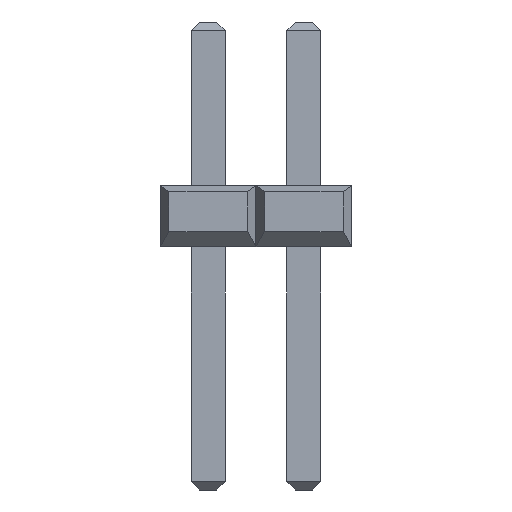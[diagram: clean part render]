
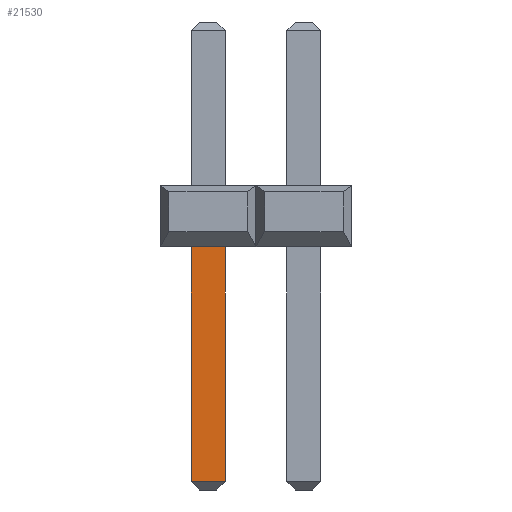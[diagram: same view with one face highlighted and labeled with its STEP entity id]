
A CAD part, left-side view. The second image highlights one B-rep face of the part: STEP entity #21530.
In plain terms, the highlighted planar face has unit normal (-1, 0, 0).
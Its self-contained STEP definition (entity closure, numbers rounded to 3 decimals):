
#21396=CARTESIAN_POINT('',(-0.356,-0.356,0.0));
#21395=VERTEX_POINT('',#21396);
#21414=CARTESIAN_POINT('',(-0.356,0.356,0.0));
#21413=VERTEX_POINT('',#21414);
#21422=EDGE_CURVE('',#21395,#21413,#21427,.T.);
#21427=LINE('',#21396,#21429);
#21429=VECTOR('',#21430,0.711);
#21430=DIRECTION('',(0.0,1.0,0.0));
#21492=CARTESIAN_POINT('',(-0.356,0.356,-4.902));
#21491=VERTEX_POINT('',#21492);
#21500=EDGE_CURVE('',#21413,#21491,#21505,.T.);
#21505=LINE('',#21414,#21507);
#21507=VECTOR('',#21508,4.902);
#21508=DIRECTION('',(0.0,0.0,-1.0));
#21530=ADVANCED_FACE('',(#21536),#21531,.T.);
#21531=PLANE('',#21532);
#21532=AXIS2_PLACEMENT_3D('',#21533,#21534,#21535);
#21533=CARTESIAN_POINT('',(-0.356,0.356,-4.902));
#21534=DIRECTION('',(-1.0,0.0,0.0));
#21535=DIRECTION('',(0.,0.,1.));
#21536=FACE_OUTER_BOUND('',#21537,.T.);
#21537=EDGE_LOOP('',(#21538,#21548,#21558,#21568));
#21541=CARTESIAN_POINT('',(-0.356,-0.356,-4.902));
#21540=VERTEX_POINT('',#21541);
#21539=EDGE_CURVE('',#21540,#21491,#21544,.T.);
#21544=LINE('',#21541,#21546);
#21546=VECTOR('',#21547,0.711);
#21547=DIRECTION('',(0.0,1.0,0.0));
#21538=ORIENTED_EDGE('',*,*,#21539,.F.);
#21549=EDGE_CURVE('',#21395,#21540,#21554,.T.);
#21554=LINE('',#21396,#21556);
#21556=VECTOR('',#21557,4.902);
#21557=DIRECTION('',(0.0,0.0,-1.0));
#21548=ORIENTED_EDGE('',*,*,#21549,.F.);
#21558=ORIENTED_EDGE('',*,*,#21422,.T.);
#21568=ORIENTED_EDGE('',*,*,#21500,.T.);
